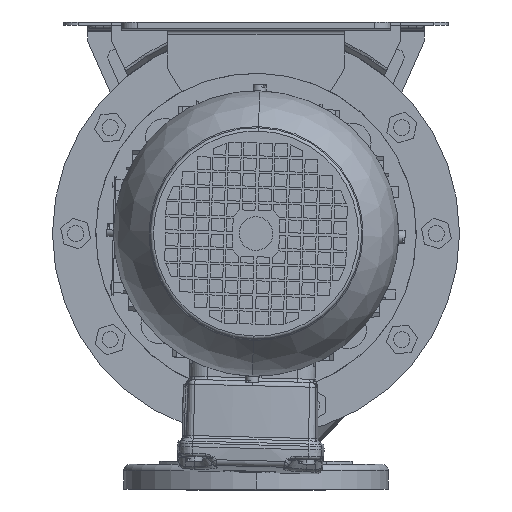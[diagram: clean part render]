
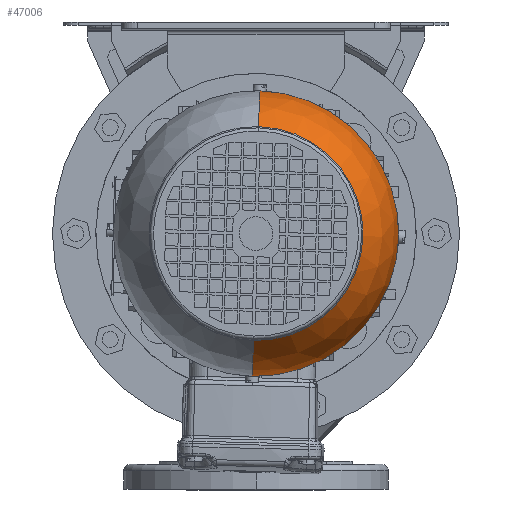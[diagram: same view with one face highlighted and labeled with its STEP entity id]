
A CAD part, front view. The second image highlights one B-rep face of the part: STEP entity #47006.
In plain terms, the highlighted spherical face has radius 89 mm.
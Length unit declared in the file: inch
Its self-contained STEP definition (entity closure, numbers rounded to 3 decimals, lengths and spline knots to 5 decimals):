
#2900 = ORIENTED_EDGE ( 'NONE', *, *, #79607, .F. ) ;
#14104 = DIRECTION ( 'NONE',  ( 0., 0., 1. ) ) ;
#16341 = CARTESIAN_POINT ( 'NONE',  ( 0., 0., -3.85827 ) ) ;
#16435 = DIRECTION ( 'NONE',  ( 0., 1., 0. ) ) ;
#18226 = VERTEX_POINT ( 'NONE', #83341 ) ;
#19207 = CIRCLE ( 'NONE', #76126, 3.50394 ) ;
#28513 = AXIS2_PLACEMENT_3D ( 'NONE', #85434, #14104, #63514 ) ;
#30077 = DIRECTION ( 'NONE',  ( 0., 0., 1. ) ) ;
#33523 = CARTESIAN_POINT ( 'NONE',  ( 0., 0., -3.85827 ) ) ;
#34237 = CIRCLE ( 'NONE', #54929, 3.50394 ) ;
#36040 = CARTESIAN_POINT ( 'NONE',  ( 0., -3.50394, -3.85827 ) ) ;
#43280 = ORIENTED_EDGE ( 'NONE', *, *, #59501, .T. ) ;
#43572 = EDGE_CURVE ( 'NONE', #156991, #76946, #95398, .T. ) ;
#47006 = ADVANCED_FACE ( 'NONE', ( #62708 ), #125116, .T. ) ;
#50475 = CIRCLE ( 'NONE', #151334, 2.62795 ) ;
#54929 = AXIS2_PLACEMENT_3D ( 'NONE', #33523, #156700, #71588 ) ;
#55050 = DIRECTION ( 'NONE',  ( 0., 0., 1. ) ) ;
#59501 = EDGE_CURVE ( 'NONE', #84127, #18226, #50475, .T. ) ;
#62708 = FACE_OUTER_BOUND ( 'NONE', #67793, .T. ) ;
#63152 = EDGE_CURVE ( 'NONE', #76946, #84127, #34237, .T. ) ;
#63514 = DIRECTION ( 'NONE',  ( 0., 1., 0. ) ) ;
#65754 = DIRECTION ( 'NONE',  ( -1., 0., 0. ) ) ;
#67793 = EDGE_LOOP ( 'NONE', ( #107148, #136984, #43280, #2900 ) ) ;
#71588 = DIRECTION ( 'NONE',  ( 0., 1., 0. ) ) ;
#76126 = AXIS2_PLACEMENT_3D ( 'NONE', #16341, #65754, #30077 ) ;
#76946 = VERTEX_POINT ( 'NONE', #36040 ) ;
#79607 = EDGE_CURVE ( 'NONE', #156991, #18226, #19207, .T. ) ;
#80389 = CARTESIAN_POINT ( 'NONE',  ( 0., 0., -3.85827 ) ) ;
#83341 = CARTESIAN_POINT ( 'NONE',  ( 0., 2.62795, -6.1759 ) ) ;
#84127 = VERTEX_POINT ( 'NONE', #104223 ) ;
#85434 = CARTESIAN_POINT ( 'NONE',  ( 0., 0., -3.85827 ) ) ;
#87484 = CARTESIAN_POINT ( 'NONE',  ( 0., 3.50394, -3.85827 ) ) ;
#93126 = DIRECTION ( 'NONE',  ( 0., -1., 0. ) ) ;
#95398 = CIRCLE ( 'NONE', #141858, 3.50394 ) ;
#104223 = CARTESIAN_POINT ( 'NONE',  ( 0., -2.62795, -6.1759 ) ) ;
#107148 = ORIENTED_EDGE ( 'NONE', *, *, #43572, .T. ) ;
#125116 = SPHERICAL_SURFACE ( 'NONE', #28513, 3.50394 ) ;
#129588 = CARTESIAN_POINT ( 'NONE',  ( 0., 0., -6.1759 ) ) ;
#129808 = DIRECTION ( 'NONE',  ( 0., 0., -1. ) ) ;
#136984 = ORIENTED_EDGE ( 'NONE', *, *, #63152, .T. ) ;
#141858 = AXIS2_PLACEMENT_3D ( 'NONE', #80389, #129808, #16435 ) ;
#151334 = AXIS2_PLACEMENT_3D ( 'NONE', #129588, #55050, #93126 ) ;
#156700 = DIRECTION ( 'NONE',  ( 1., 0., 0. ) ) ;
#156991 = VERTEX_POINT ( 'NONE', #87484 ) ;
